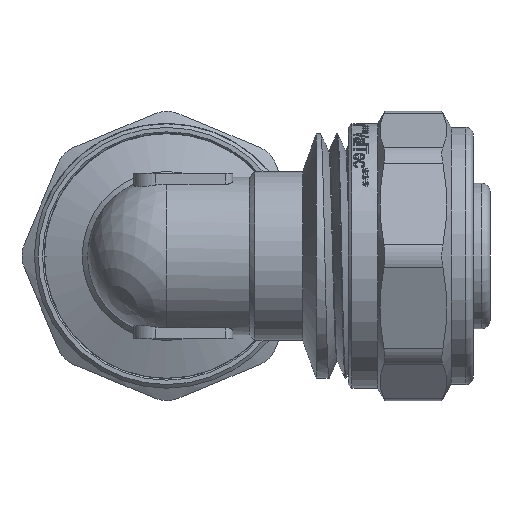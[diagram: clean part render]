
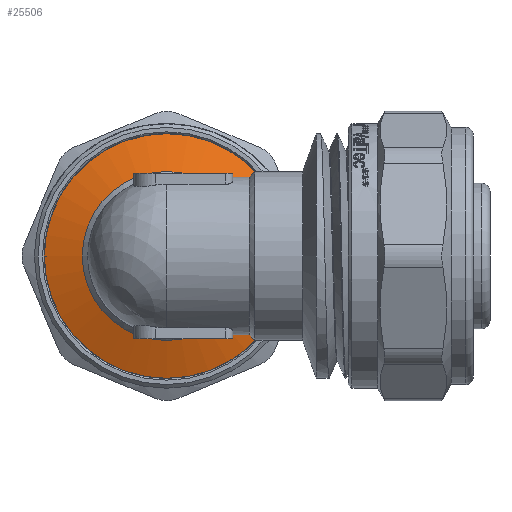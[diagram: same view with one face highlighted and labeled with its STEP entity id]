
A CAD part, front view. The second image highlights one B-rep face of the part: STEP entity #25506.
In plain terms, the highlighted conical face has half-angle 70 degrees and reference radius 14.075 mm.
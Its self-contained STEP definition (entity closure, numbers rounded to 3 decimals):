
#617=CONICAL_SURFACE('',#26843,14.075,1.222);
#2164=FACE_OUTER_BOUND('',#3631,.T.);
#3631=EDGE_LOOP('',(#20824,#20825,#20826,#20827,#20828));
#4345=CIRCLE('',#26190,16.65);
#4641=CIRCLE('',#26841,11.5);
#4642=CIRCLE('',#26842,11.5);
#7538=LINE('',#45955,#9246);
#9246=VECTOR('',#29716,14.075);
#10008=VERTEX_POINT('',#31868);
#11448=VERTEX_POINT('',#45949);
#11449=VERTEX_POINT('',#45950);
#12696=EDGE_CURVE('',#10008,#10008,#4345,.T.);
#14822=EDGE_CURVE('',#11448,#11449,#4641,.T.);
#14823=EDGE_CURVE('',#11449,#11448,#4642,.T.);
#14825=EDGE_CURVE('',#10008,#11449,#7538,.T.);
#20824=ORIENTED_EDGE('',*,*,#12696,.F.);
#20825=ORIENTED_EDGE('',*,*,#14825,.T.);
#20826=ORIENTED_EDGE('',*,*,#14823,.T.);
#20827=ORIENTED_EDGE('',*,*,#14822,.T.);
#20828=ORIENTED_EDGE('',*,*,#14825,.F.);
#25506=ADVANCED_FACE('',(#2164),#617,.T.);
#26190=AXIS2_PLACEMENT_3D('',#31912,#27450,#27451);
#26841=AXIS2_PLACEMENT_3D('',#45951,#29709,#29710);
#26842=AXIS2_PLACEMENT_3D('',#45952,#29711,#29712);
#26843=AXIS2_PLACEMENT_3D('',#45954,#29714,#29715);
#27450=DIRECTION('center_axis',(0.,1.,0.));
#27451=DIRECTION('ref_axis',(0.,0.,-1.));
#29709=DIRECTION('center_axis',(0.,1.,0.));
#29710=DIRECTION('ref_axis',(0.,0.,-1.));
#29711=DIRECTION('center_axis',(0.,1.,0.));
#29712=DIRECTION('ref_axis',(0.,0.,-1.));
#29714=DIRECTION('center_axis',(0.,1.,0.));
#29715=DIRECTION('ref_axis',(1.,0.,0.));
#29716=DIRECTION('',(0.94,-0.342,0.));
#31868=CARTESIAN_POINT('',(-16.65,20.374,0.));
#31912=CARTESIAN_POINT('Origin',(0.,20.374,
0.));
#45949=CARTESIAN_POINT('',(11.5,18.5,0.));
#45950=CARTESIAN_POINT('',(-11.5,18.5,0.));
#45951=CARTESIAN_POINT('Origin',(0.,18.5,0.));
#45952=CARTESIAN_POINT('Origin',(0.,18.5,0.));
#45954=CARTESIAN_POINT('Origin',(0.,19.437,
0.));
#45955=CARTESIAN_POINT('',(-14.075,19.437,0.));
